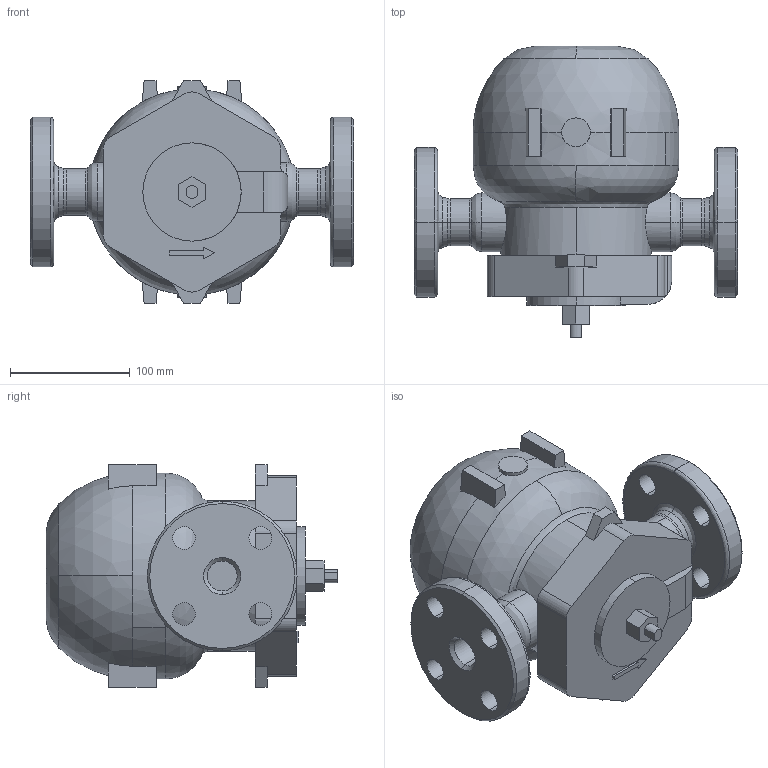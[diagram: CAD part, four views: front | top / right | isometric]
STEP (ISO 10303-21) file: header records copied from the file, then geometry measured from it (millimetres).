
FILE_DESCRIPTION( (''), '2;1');
FILE_NAME ('PC1027.9516.TSF-11F 25A(JIS 10K,20K)_30554.stp','2025-07-30T17:44:55',(''),(''),'spGate 20.6.3 (****-****-****-****)','','');
FILE_SCHEMA (('AUTOMOTIVE_DESIGN'));
Length unit declared in the file: millimetre
Bounding box: 270 x 243.5 x 186 mm (x, y, z)
Volume: 4378047.3 mm3; surface area: 235380.9 mm2
Topology: 1 solids, 1 shells, 164 faces, 425 edges, 271 vertices
Faces by surface type: plane 69, cylinder 55, bspline 38, sphere 2
Entity records: 9318 total; most frequent: CARTESIAN_POINT 2148, ORIENTED_EDGE 850, DIRECTION 734, COLOUR_RGB 590, PRESENTATION_STYLE_ASSIGNMENT 590, STYLED_ITEM 590, EDGE_CURVE 425, DRAUGHTING_PRE_DEFINED_CURVE_FONT 425
